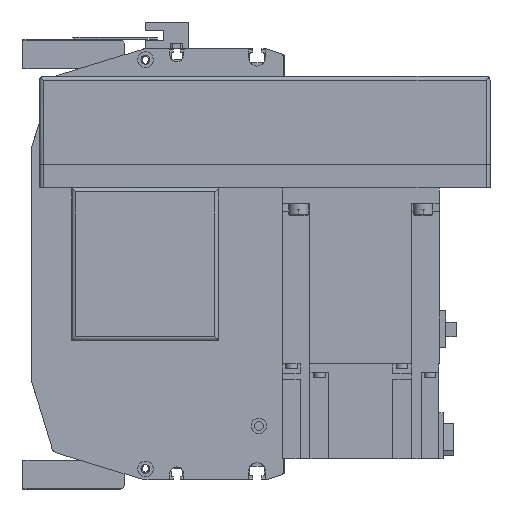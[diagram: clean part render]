
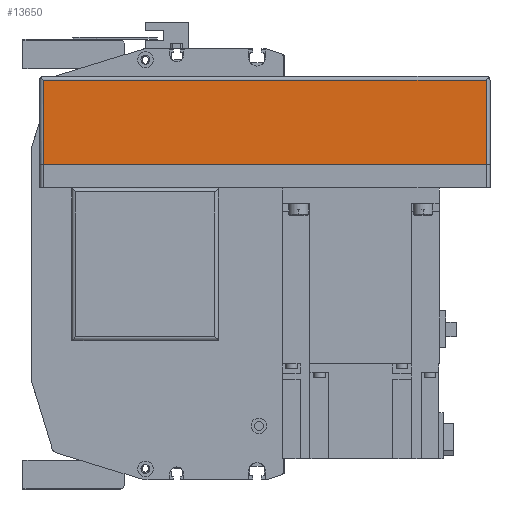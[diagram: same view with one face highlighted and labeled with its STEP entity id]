
A CAD part, left-side view. The second image highlights one B-rep face of the part: STEP entity #13650.
In plain terms, the highlighted planar face has unit normal (-1, 0, 0) as drawn and (0, -1, 0) by its records, which use the part's own axes.
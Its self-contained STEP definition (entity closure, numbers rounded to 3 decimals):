
#2219=ORIENTED_EDGE('',*,*,#5514,.F.);
#2220=ORIENTED_EDGE('',*,*,#5517,.T.);
#2221=ORIENTED_EDGE('',*,*,#5518,.T.);
#2222=ORIENTED_EDGE('',*,*,#5519,.F.);
#5514=EDGE_CURVE('',#7289,#7290,#8705,.T.);
#5517=EDGE_CURVE('',#7289,#7292,#8707,.T.);
#5518=EDGE_CURVE('',#7292,#7293,#8708,.T.);
#5519=EDGE_CURVE('',#7290,#7293,#8709,.T.);
#7289=VERTEX_POINT('',#21219);
#7290=VERTEX_POINT('',#21221);
#7292=VERTEX_POINT('',#21227);
#7293=VERTEX_POINT('',#21229);
#8705=LINE('',#21220,#10040);
#8707=LINE('',#21226,#10042);
#8708=LINE('',#21228,#10043);
#8709=LINE('',#21230,#10044);
#10040=VECTOR('',#16972,1000.);
#10042=VECTOR('',#16978,1000.);
#10043=VECTOR('',#16979,1000.);
#10044=VECTOR('',#16980,1000.);
#11200=EDGE_LOOP('',(#2219,#2220,#2221,#2222));
#12199=FACE_BOUND('',#11200,.T.);
#13054=PLANE('',#14630);
#13650=ADVANCED_FACE('',(#12199),#13054,.T.);
#14630=AXIS2_PLACEMENT_3D('',#21225,#16976,#16977);
#16972=DIRECTION('',(0.,0.,1.));
#16976=DIRECTION('',(0.,-1.,0.));
#16977=DIRECTION('',(0.,0.,-1.));
#16978=DIRECTION('',(1.,0.,0.));
#16979=DIRECTION('',(0.,0.,1.));
#16980=DIRECTION('',(1.,0.,0.));
#21219=CARTESIAN_POINT('',(-228.,-54.,-55.));
#21220=CARTESIAN_POINT('',(-228.,-54.,-57.));
#21221=CARTESIAN_POINT('',(-228.,-54.,-12.));
#21225=CARTESIAN_POINT('',(-228.,-54.,-57.));
#21226=CARTESIAN_POINT('',(-230.,-54.,-55.));
#21227=CARTESIAN_POINT('',(-2.,-54.,-55.));
#21228=CARTESIAN_POINT('',(-2.,-54.,-57.));
#21229=CARTESIAN_POINT('',(-2.,-54.,-12.));
#21230=CARTESIAN_POINT('',(-228.,-54.,-12.));
